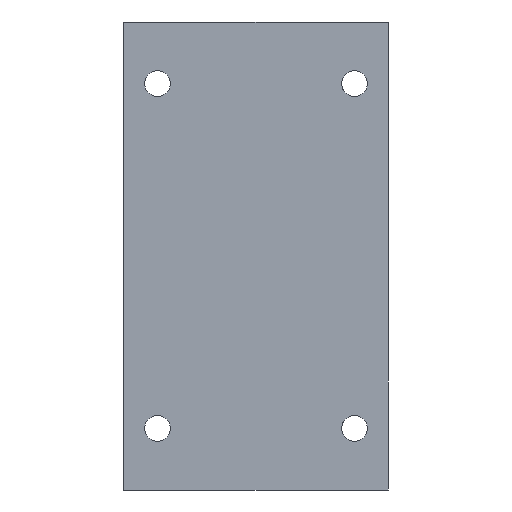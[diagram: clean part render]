
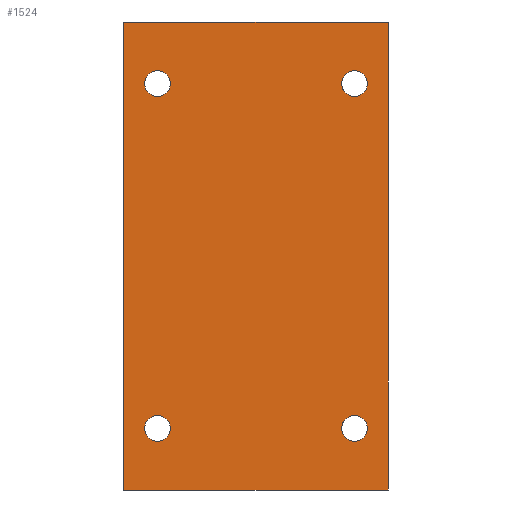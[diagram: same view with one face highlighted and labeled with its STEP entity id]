
A CAD part, front view. The second image highlights one B-rep face of the part: STEP entity #1524.
In plain terms, the highlighted planar face has unit normal (0, -1, 0).
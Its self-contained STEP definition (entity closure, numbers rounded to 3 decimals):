
#35 = CARTESIAN_POINT ( 'NONE',  ( -16., -14., 28. ) ) ;
#113 = ORIENTED_EDGE ( 'NONE', *, *, #2612, .T. ) ;
#127 = DIRECTION ( 'NONE',  ( 0., 0., -1. ) ) ;
#154 = CIRCLE ( 'NONE', #2489, 2.1 ) ;
#258 = VECTOR ( 'NONE', #407, 1000. ) ;
#266 = CARTESIAN_POINT ( 'NONE',  ( -16., -14., -28. ) ) ;
#268 = VERTEX_POINT ( 'NONE', #1302 ) ;
#269 = ORIENTED_EDGE ( 'NONE', *, *, #2871, .F. ) ;
#286 = EDGE_LOOP ( 'NONE', ( #1242, #1162 ) ) ;
#352 = CARTESIAN_POINT ( 'NONE',  ( 16., -14., -25.9 ) ) ;
#365 = VERTEX_POINT ( 'NONE', #2907 ) ;
#375 = DIRECTION ( 'NONE',  ( 0., -1., 0. ) ) ;
#383 = AXIS2_PLACEMENT_3D ( 'NONE', #1988, #3034, #3015 ) ;
#399 = FACE_BOUND ( 'NONE', #3289, .T. ) ;
#407 = DIRECTION ( 'NONE',  ( 0., 0., -1. ) ) ;
#444 = CARTESIAN_POINT ( 'NONE',  ( -21.5, -14., -38. ) ) ;
#453 = VERTEX_POINT ( 'NONE', #352 ) ;
#491 = VECTOR ( 'NONE', #2261, 1000. ) ;
#503 = EDGE_CURVE ( 'NONE', #453, #966, #2213, .T. ) ;
#637 = CARTESIAN_POINT ( 'NONE',  ( 16., -14., -28. ) ) ;
#653 = VERTEX_POINT ( 'NONE', #1570 ) ;
#664 = CARTESIAN_POINT ( 'NONE',  ( 16., -14., 28. ) ) ;
#684 = DIRECTION ( 'NONE',  ( 0., -1., 0. ) ) ;
#812 = ORIENTED_EDGE ( 'NONE', *, *, #2053, .F. ) ;
#877 = DIRECTION ( 'NONE',  ( 0., 1., 0. ) ) ;
#899 = EDGE_CURVE ( 'NONE', #1923, #2350, #1225, .T. ) ;
#906 = VECTOR ( 'NONE', #1727, 1000. ) ;
#960 = CIRCLE ( 'NONE', #1443, 2.1 ) ;
#966 = VERTEX_POINT ( 'NONE', #3232 ) ;
#1141 = CIRCLE ( 'NONE', #2330, 2.1 ) ;
#1162 = ORIENTED_EDGE ( 'NONE', *, *, #2850, .F. ) ;
#1186 = DIRECTION ( 'NONE',  ( 0., -1., 0. ) ) ;
#1225 = LINE ( 'NONE', #444, #906 ) ;
#1242 = ORIENTED_EDGE ( 'NONE', *, *, #3041, .F. ) ;
#1302 = CARTESIAN_POINT ( 'NONE',  ( 21.5, -14., 38. ) ) ;
#1321 = EDGE_CURVE ( 'NONE', #1630, #3040, #3107, .T. ) ;
#1348 = ORIENTED_EDGE ( 'NONE', *, *, #3235, .F. ) ;
#1441 = CARTESIAN_POINT ( 'NONE',  ( -16., -14., -28. ) ) ;
#1443 = AXIS2_PLACEMENT_3D ( 'NONE', #266, #2606, #2110 ) ;
#1453 = EDGE_CURVE ( 'NONE', #2629, #2099, #960, .T. ) ;
#1464 = DIRECTION ( 'NONE',  ( 0., 0., -1. ) ) ;
#1498 = EDGE_LOOP ( 'NONE', ( #3057, #812 ) ) ;
#1524 = ADVANCED_FACE ( 'NONE', ( #1686, #2428, #2143, #399, #2695 ), #2714, .F. ) ;
#1570 = CARTESIAN_POINT ( 'NONE',  ( 16., -14., 25.9 ) ) ;
#1622 = LINE ( 'NONE', #1674, #258 ) ;
#1630 = VERTEX_POINT ( 'NONE', #2245 ) ;
#1658 = DIRECTION ( 'NONE',  ( 0., -1., 0. ) ) ;
#1663 = CARTESIAN_POINT ( 'NONE',  ( -16., -14., 30.1 ) ) ;
#1674 = CARTESIAN_POINT ( 'NONE',  ( -21.5, -14., 38. ) ) ;
#1676 = CIRCLE ( 'NONE', #2754, 2.1 ) ;
#1686 = FACE_BOUND ( 'NONE', #2235, .T. ) ;
#1713 = AXIS2_PLACEMENT_3D ( 'NONE', #35, #2377, #2620 ) ;
#1724 = EDGE_LOOP ( 'NONE', ( #2869, #1348, #269, #113 ) ) ;
#1727 = DIRECTION ( 'NONE',  ( 1., 0., 0. ) ) ;
#1748 = LINE ( 'NONE', #2774, #2175 ) ;
#1760 = CARTESIAN_POINT ( 'NONE',  ( 21.5, -14., -38. ) ) ;
#1832 = CARTESIAN_POINT ( 'NONE',  ( -16., -14., -30.1 ) ) ;
#1882 = DIRECTION ( 'NONE',  ( 0., -1., 0. ) ) ;
#1923 = VERTEX_POINT ( 'NONE', #3316 ) ;
#1958 = LINE ( 'NONE', #2493, #491 ) ;
#1988 = CARTESIAN_POINT ( 'NONE',  ( 16., -14., -28. ) ) ;
#1991 = CARTESIAN_POINT ( 'NONE',  ( 16., -14., 28. ) ) ;
#2009 = AXIS2_PLACEMENT_3D ( 'NONE', #1991, #684, #127 ) ;
#2053 = EDGE_CURVE ( 'NONE', #3040, #1630, #1676, .T. ) ;
#2099 = VERTEX_POINT ( 'NONE', #1832 ) ;
#2110 = DIRECTION ( 'NONE',  ( 0., 0., -1. ) ) ;
#2143 = FACE_BOUND ( 'NONE', #1498, .T. ) ;
#2163 = ORIENTED_EDGE ( 'NONE', *, *, #2680, .F. ) ;
#2175 = VECTOR ( 'NONE', #1464, 1000. ) ;
#2213 = CIRCLE ( 'NONE', #2746, 2.1 ) ;
#2220 = DIRECTION ( 'NONE',  ( 0., 0., -1. ) ) ;
#2235 = EDGE_LOOP ( 'NONE', ( #2437, #2264 ) ) ;
#2245 = CARTESIAN_POINT ( 'NONE',  ( -16., -14., 25.9 ) ) ;
#2261 = DIRECTION ( 'NONE',  ( 1., 0., 0. ) ) ;
#2264 = ORIENTED_EDGE ( 'NONE', *, *, #503, .F. ) ;
#2330 = AXIS2_PLACEMENT_3D ( 'NONE', #1441, #1186, #2220 ) ;
#2347 = VERTEX_POINT ( 'NONE', #3296 ) ;
#2350 = VERTEX_POINT ( 'NONE', #1760 ) ;
#2377 = DIRECTION ( 'NONE',  ( 0., -1., 0. ) ) ;
#2409 = CARTESIAN_POINT ( 'NONE',  ( -21.5, -14., 38. ) ) ;
#2428 = FACE_OUTER_BOUND ( 'NONE', #1724, .T. ) ;
#2437 = ORIENTED_EDGE ( 'NONE', *, *, #3293, .F. ) ;
#2462 = DIRECTION ( 'NONE',  ( 0., 0., 1. ) ) ;
#2489 = AXIS2_PLACEMENT_3D ( 'NONE', #664, #375, #2675 ) ;
#2493 = CARTESIAN_POINT ( 'NONE',  ( -21.5, -14., 38. ) ) ;
#2580 = ORIENTED_EDGE ( 'NONE', *, *, #1453, .F. ) ;
#2606 = DIRECTION ( 'NONE',  ( 0., -1., 0. ) ) ;
#2612 = EDGE_CURVE ( 'NONE', #365, #1923, #1622, .T. ) ;
#2620 = DIRECTION ( 'NONE',  ( 0., 0., -1. ) ) ;
#2629 = VERTEX_POINT ( 'NONE', #2720 ) ;
#2633 = DIRECTION ( 'NONE',  ( 0., 0., -1. ) ) ;
#2675 = DIRECTION ( 'NONE',  ( 0., 0., -1. ) ) ;
#2680 = EDGE_CURVE ( 'NONE', #2099, #2629, #1141, .T. ) ;
#2688 = DIRECTION ( 'NONE',  ( 0., 0., -1. ) ) ;
#2695 = FACE_BOUND ( 'NONE', #286, .T. ) ;
#2714 = PLANE ( 'NONE',  #2737 ) ;
#2720 = CARTESIAN_POINT ( 'NONE',  ( -16., -14., -25.9 ) ) ;
#2737 = AXIS2_PLACEMENT_3D ( 'NONE', #2409, #877, #2462 ) ;
#2746 = AXIS2_PLACEMENT_3D ( 'NONE', #637, #1658, #2688 ) ;
#2754 = AXIS2_PLACEMENT_3D ( 'NONE', #2927, #1882, #2633 ) ;
#2774 = CARTESIAN_POINT ( 'NONE',  ( 21.5, -14., 38. ) ) ;
#2807 = CIRCLE ( 'NONE', #2009, 2.1 ) ;
#2850 = EDGE_CURVE ( 'NONE', #2347, #653, #2807, .T. ) ;
#2862 = CIRCLE ( 'NONE', #383, 2.1 ) ;
#2869 = ORIENTED_EDGE ( 'NONE', *, *, #899, .T. ) ;
#2871 = EDGE_CURVE ( 'NONE', #365, #268, #1958, .T. ) ;
#2907 = CARTESIAN_POINT ( 'NONE',  ( -21.5, -14., 38. ) ) ;
#2927 = CARTESIAN_POINT ( 'NONE',  ( -16., -14., 28. ) ) ;
#3015 = DIRECTION ( 'NONE',  ( 0., 0., -1. ) ) ;
#3034 = DIRECTION ( 'NONE',  ( 0., -1., 0. ) ) ;
#3040 = VERTEX_POINT ( 'NONE', #1663 ) ;
#3041 = EDGE_CURVE ( 'NONE', #653, #2347, #154, .T. ) ;
#3057 = ORIENTED_EDGE ( 'NONE', *, *, #1321, .F. ) ;
#3107 = CIRCLE ( 'NONE', #1713, 2.1 ) ;
#3232 = CARTESIAN_POINT ( 'NONE',  ( 16., -14., -30.1 ) ) ;
#3235 = EDGE_CURVE ( 'NONE', #268, #2350, #1748, .T. ) ;
#3289 = EDGE_LOOP ( 'NONE', ( #2163, #2580 ) ) ;
#3293 = EDGE_CURVE ( 'NONE', #966, #453, #2862, .T. ) ;
#3296 = CARTESIAN_POINT ( 'NONE',  ( 16., -14., 30.1 ) ) ;
#3316 = CARTESIAN_POINT ( 'NONE',  ( -21.5, -14., -38. ) ) ;
